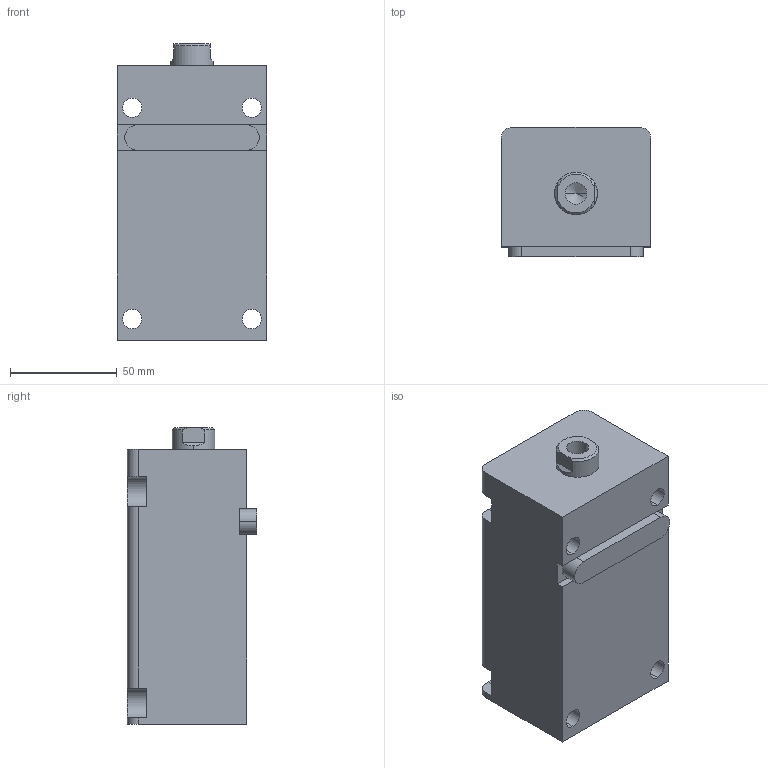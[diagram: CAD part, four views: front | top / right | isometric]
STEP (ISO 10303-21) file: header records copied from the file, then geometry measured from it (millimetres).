
FILE_DESCRIPTION (( 'STEP AP203' ), '1' );
FILE_NAME ('HTB-LA32-75N.STEP', '2019-10-09T06:30:43', ( '微软用户' ), ( '微软中国' ), 'SwSTEP 2.0', 'SolidWorks 2012', '' );
FILE_SCHEMA (( 'CONFIG_CONTROL_DESIGN' ));
Length unit declared in the file: millimetre
Products named in the file (4): HTB-LA32-75掛极; HTB-LA32-75N活塞杆; HTB-LA32-瑩; HTB-LA32-75N
Assembly tree (3 placements, depth 2):
  HTB-LA32-75N
    HTB-LA32-75掛极
    HTB-LA32-75N活塞杆
    HTB-LA32-瑩
Bounding box: 70 x 60.5 x 139 mm (x, y, z)
Volume: 452086.3 mm3; surface area: 71829.9 mm2
Topology: 3 solids, 3 shells, 88 faces, 217 edges, 141 vertices
Faces by surface type: plane 39, cylinder 35, cone 8, torus 6
Entity records: 3053 total; most frequent: DIRECTION 487, CARTESIAN_POINT 478, ORIENTED_EDGE 430, EDGE_CURVE 215, AXIS2_PLACEMENT_3D 186, VERTEX_POINT 141, LINE 115, VECTOR 115
